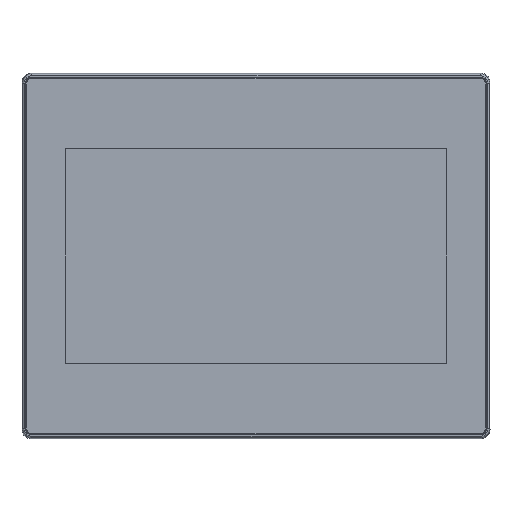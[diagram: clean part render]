
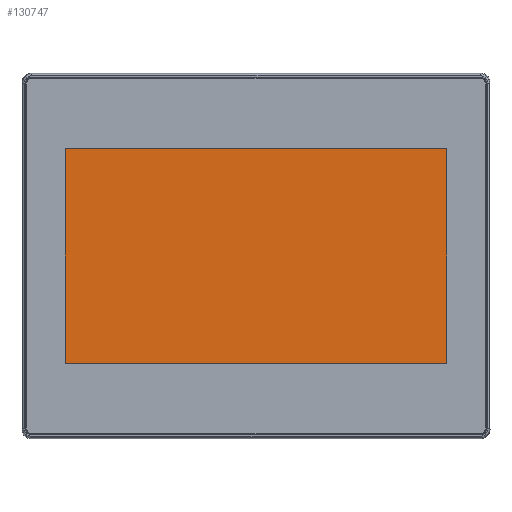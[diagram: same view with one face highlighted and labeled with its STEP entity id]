
A CAD part, front view. The second image highlights one B-rep face of the part: STEP entity #130747.
In plain terms, the highlighted planar face has unit normal (0, -1, 0).
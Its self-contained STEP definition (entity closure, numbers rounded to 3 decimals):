
#38160=DIRECTION('',(0.,0.,-1.));
#38161=VECTOR('',#38160,125.28);
#38162=CARTESIAN_POINT('',(-111.36,0.5,62.64));
#38163=LINE('',#38162,#38161);
#38164=DIRECTION('',(-1.,0.,0.));
#38165=VECTOR('',#38164,222.72);
#38166=CARTESIAN_POINT('',(111.36,0.5,62.64));
#38167=LINE('',#38166,#38165);
#38176=DIRECTION('',(0.,0.,1.));
#38177=VECTOR('',#38176,125.28);
#38178=CARTESIAN_POINT('',(111.36,0.5,-62.64));
#38179=LINE('',#38178,#38177);
#38184=DIRECTION('',(1.,0.,0.));
#38185=VECTOR('',#38184,222.72);
#38186=CARTESIAN_POINT('',(-111.36,0.5,-62.64));
#38187=LINE('',#38186,#38185);
#61643=CARTESIAN_POINT('',(-111.36,0.5,62.64));
#61644=CARTESIAN_POINT('',(-111.36,0.5,-62.64));
#61645=VERTEX_POINT('',#61643);
#61646=VERTEX_POINT('',#61644);
#61647=CARTESIAN_POINT('',(111.36,0.5,62.64));
#61648=VERTEX_POINT('',#61647);
#61649=CARTESIAN_POINT('',(111.36,0.5,-62.64));
#61650=VERTEX_POINT('',#61649);
#130733=CARTESIAN_POINT('',(0.,0.5,0.));
#130734=DIRECTION('',(0.,-1.,0.));
#130735=DIRECTION('',(1.,0.,0.));
#130736=AXIS2_PLACEMENT_3D('',#130733,#130734,#130735);
#130737=PLANE('',#130736);
#130738=ORIENTED_EDGE('',*,*,#130723,.F.);
#130740=ORIENTED_EDGE('',*,*,#130739,.F.);
#130742=ORIENTED_EDGE('',*,*,#130741,.F.);
#130744=ORIENTED_EDGE('',*,*,#130743,.F.);
#130745=EDGE_LOOP('',(#130738,#130740,#130742,#130744));
#130746=FACE_OUTER_BOUND('',#130745,.F.);
#130747=ADVANCED_FACE('',(#130746),#130737,.T.);
#130723=EDGE_CURVE('',#61645,#61646,#38163,.T.);
#130739=EDGE_CURVE('',#61648,#61645,#38167,.T.);
#130741=EDGE_CURVE('',#61650,#61648,#38179,.T.);
#130743=EDGE_CURVE('',#61646,#61650,#38187,.T.);
